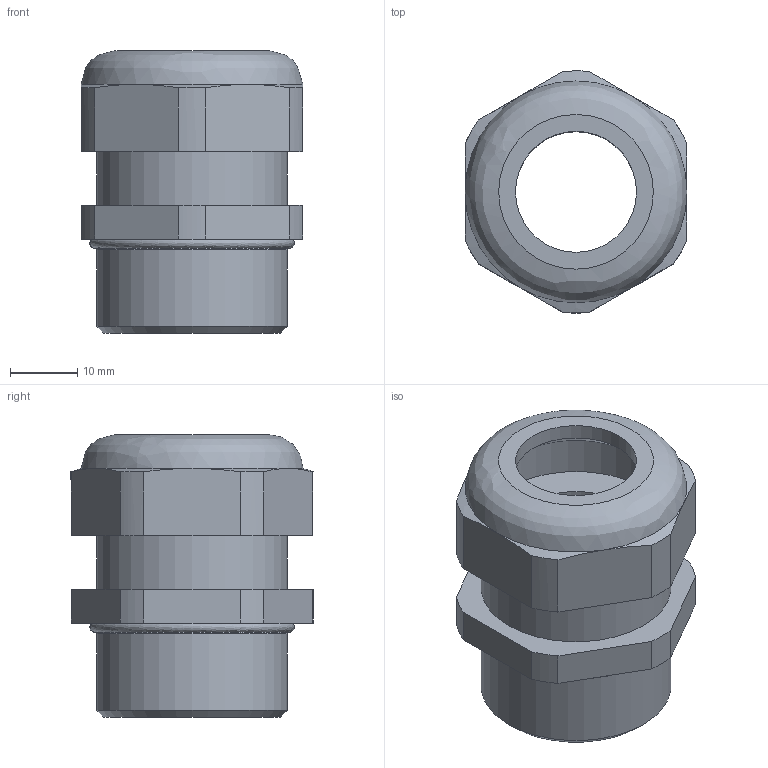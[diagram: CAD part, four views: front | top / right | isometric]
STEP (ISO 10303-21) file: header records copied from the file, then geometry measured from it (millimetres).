
FILE_DESCRIPTION(/* description */ (''),/* implementation_level */ '2;1');
FILE_NAME(/* name */ '100935915ugm000_a.stp',/* time_stamp */ '2022-03-12T11:49:45+01:00',/* author */ (''),/* organization */ (''),/* preprocessor_version */ 'ST-DEVELOPER v16.7',/* originating_system */ 'SIEMENS PLM Software NX 1911',/* authorisation */ '');
FILE_SCHEMA (('AUTOMOTIVE_DESIGN { 1 0 10303 214 3 1 1 1 }'));
Length unit declared in the file: millimetre
Products named in the file (1): 100935915ugm000_a
Bounding box: 33 x 36 x 42 mm (x, y, z)
Volume: 17963.1 mm3; surface area: 9600 mm2
Topology: 1 solids, 1 shells, 150 faces, 467 edges, 424 vertices
Faces by surface type: plane 107, cylinder 27, bspline 9, cone 5, extrusion 2
Full cylindrical faces by diameter (mm): 0.455 x1, 0.538 x1, 18 x2, 28.3 x3
Entity records: 6674 total; most frequent: CARTESIAN_POINT 1355, DIRECTION 782, ORIENTED_EDGE 724, EDGE_CURVE 362, VECTOR 350, LINE 348, VERTEX_POINT 248, PRESENTATION_STYLE_ASSIGNMENT 239
